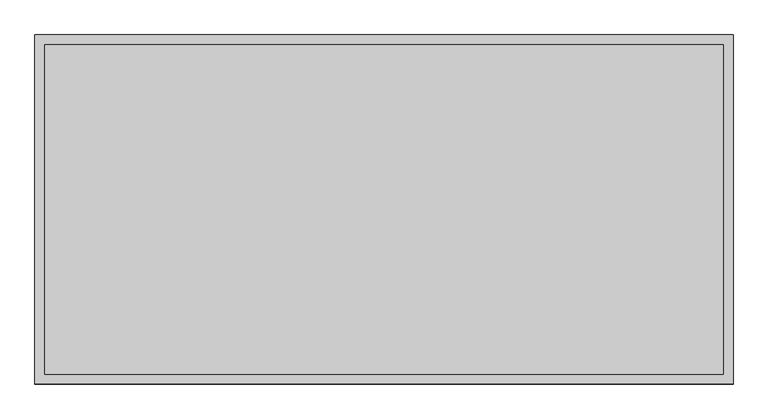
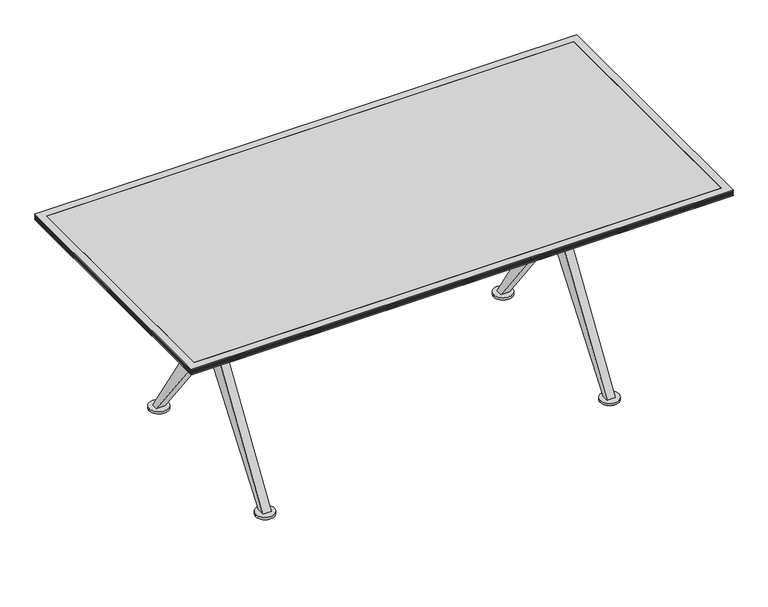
"""IFC4 building model written with IfcOpenShell, lengths in millimetres: furniture geometry, Coalesse_AM_Table_Conference_Ballet_Rectangular_XBase : Folding - 72L x 36W."""

from ifc_helpers import new_model, si_unit, point, frame, frame_2d, origin, origin_with_axes, place, context, project, spatial, polyline, circle_curve, trimmed, segment, composite_curve, outline, extrude, faceted_brep, source, transform, mapped, element, save
from ifc_brep_helpers import plane_surface, cylinder_surface, advanced_brep


def furniture_43bcfa1b(model_context):
    return source(origin(), model_context, "Body", "SolidModel", [
        extrude(outline(composite_curve([segment(trimmed(circle_curve(frame_2d((-581.0365536, 310.3799254)), 25.4), [point((-606.4365536, 310.3799254))], [point((-555.6365536, 310.3799254))], False, "CARTESIAN"), True, "CONTINUOUS"), segment(trimmed(circle_curve(frame_2d((-581.0365536, 310.3799254)), 25.4), [point((-555.6365536, 310.3799254))], [point((-606.4365536, 310.3799254))], False, "CARTESIAN"), True, "CONTINUOUS")], self_intersect=False)), origin_with_axes(), (0.0, 0.0, 1.0), 4.5427804),
        extrude(outline(composite_curve([segment(trimmed(circle_curve(frame_2d((-581.6541541, -311.83186)), 25.4), [point((-607.0541541, -311.83186))], [point((-556.2541541, -311.83186))], False, "CARTESIAN"), True, "CONTINUOUS"), segment(trimmed(circle_curve(frame_2d((-581.6541541, -311.83186)), 25.4), [point((-556.2541541, -311.83186))], [point((-607.0541541, -311.83186))], False, "CARTESIAN"), True, "CONTINUOUS")], self_intersect=False)), origin_with_axes(), (0.0, 0.0, 1.0), 4.5427804),
        extrude(outline(composite_curve([segment(trimmed(circle_curve(frame_2d((581.0365536, 310.388)), 25.4), [point((555.6365536, 310.388))], [point((606.4365536, 310.388))], False, "CARTESIAN"), True, "CONTINUOUS"), segment(trimmed(circle_curve(frame_2d((581.0365536, 310.388)), 25.4), [point((606.4365536, 310.388))], [point((555.6365536, 310.388))], False, "CARTESIAN"), True, "CONTINUOUS")], self_intersect=False)), origin_with_axes(), (0.0, 0.0, 1.0), 4.5427804),
        extrude(outline(composite_curve([segment(trimmed(circle_curve(frame_2d((581.6541541, -311.83186)), 25.4), [point((556.2541541, -311.83186))], [point((607.0541541, -311.83186))], False, "CARTESIAN"), True, "CONTINUOUS"), segment(trimmed(circle_curve(frame_2d((581.6541541, -311.83186)), 25.4), [point((607.0541541, -311.83186))], [point((556.2541541, -311.83186))], False, "CARTESIAN"), True, "CONTINUOUS")], self_intersect=False)), origin_with_axes(), (0.0, 0.0, 1.0), 4.5427804),
        extrude(outline(composite_curve([segment(trimmed(circle_curve(frame_2d((-581.0365536, 310.3799254)), 31.7510292), [point((-612.7875828, 310.3799254))], [point((-549.2855244, 310.3799254))], False, "CARTESIAN"), True, "CONTINUOUS"), segment(trimmed(circle_curve(frame_2d((-581.0365536, 310.3799254)), 31.7510292), [point((-549.2855244, 310.3799254))], [point((-612.7875828, 310.3799254))], False, "CARTESIAN"), True, "CONTINUOUS")], self_intersect=False)), frame((0.0, 0.0, 4.5427804), z_axis=(0.0, 0.0, 1.0), x_axis=(1.0, 0.0, 0.0)), (0.0, 0.0, 1.0), 8.1572196),
        extrude(outline(composite_curve([segment(trimmed(circle_curve(frame_2d((-581.6541541, -311.83186)), 31.75), [point((-613.4041541, -311.83186))], [point((-549.9041541, -311.83186))], False, "CARTESIAN"), True, "CONTINUOUS"), segment(trimmed(circle_curve(frame_2d((-581.6541541, -311.83186)), 31.75), [point((-549.9041541, -311.83186))], [point((-613.4041541, -311.83186))], False, "CARTESIAN"), True, "CONTINUOUS")], self_intersect=False)), frame((0.0, 0.0, 4.5427804), z_axis=(0.0, 0.0, 1.0), x_axis=(1.0, 0.0, 0.0)), (0.0, 0.0, 1.0), 8.1572196),
        extrude(outline(composite_curve([segment(trimmed(circle_curve(frame_2d((581.0365536, 310.388)), 31.7510292), [point((549.2855244, 310.388))], [point((612.7875828, 310.388))], False, "CARTESIAN"), True, "CONTINUOUS"), segment(trimmed(circle_curve(frame_2d((581.0365536, 310.388)), 31.7510292), [point((612.7875828, 310.388))], [point((549.2855244, 310.388))], False, "CARTESIAN"), True, "CONTINUOUS")], self_intersect=False)), frame((0.0, 0.0, 4.5427804), z_axis=(0.0, 0.0, 1.0), x_axis=(1.0, 0.0, 0.0)), (0.0, 0.0, 1.0), 8.1572196),
        extrude(outline(composite_curve([segment(trimmed(circle_curve(frame_2d((581.6541541, -311.83186)), 31.75), [point((549.9041541, -311.83186))], [point((613.4041541, -311.83186))], False, "CARTESIAN"), True, "CONTINUOUS"), segment(trimmed(circle_curve(frame_2d((581.6541541, -311.83186)), 31.75), [point((613.4041541, -311.83186))], [point((549.9041541, -311.83186))], False, "CARTESIAN"), True, "CONTINUOUS")], self_intersect=False)), frame((0.0, 0.0, 4.5427804), z_axis=(0.0, 0.0, 1.0), x_axis=(1.0, 0.0, 0.0)), (0.0, 0.0, 1.0), 8.1572196),
        extrude(outline(polyline([(21.0343629, 381.0), (21.0343629, 482.7111245), (322.2625018, 12.7), (299.8750745, 12.7), (21.0343629, 381.0)])), frame((566.7375, 0.0, 0.0), z_axis=(1.0, 0.0, 0.0), x_axis=(0.0, 1.0, 0.0)), (0.0, 0.0, 1.0), 28.575),
        extrude(outline(polyline([(-21.0343629, 381.0), (-299.8750745, 12.7), (-322.2625018, 12.7), (-21.0343629, 482.7111245), (-21.0343629, 381.0)])), frame((566.7375, 0.0, 0.0), z_axis=(1.0, 0.0, 0.0), x_axis=(0.0, 1.0, 0.0)), (0.0, 0.0, 1.0), 28.575),
        extrude(outline(polyline([(21.0343629, 381.0), (21.0343629, 482.7111245), (322.2625018, 12.7), (299.8750745, 12.7), (21.0343629, 381.0)])), frame((-595.3125, 0.0, 0.0), z_axis=(1.0, 0.0, 0.0), x_axis=(0.0, 1.0, 0.0)), (0.0, 0.0, 1.0), 28.5877172),
        extrude(outline(polyline([(-21.0343629, 381.0), (-299.8750745, 12.7), (-322.2625018, 12.7), (-21.0343629, 482.7111245), (-21.0343629, 381.0)])), frame((-595.3125, 0.0, 0.0), z_axis=(1.0, 0.0, 0.0), x_axis=(0.0, 1.0, 0.0)), (0.0, 0.0, 1.0), 28.5877172),
        extrude(outline(polyline([(-21.0343629, 577.7388634), (-333.375, 698.5000242), (-305.990625, 698.5000242), (-21.0343629, 641.3500242), (-21.0343629, 577.7388634)])), frame((566.7375, 0.0, 0.0), z_axis=(1.0, 0.0, 0.0), x_axis=(0.0, 1.0, 0.0)), (0.0, 0.0, 1.0), 28.575),
        extrude(outline(polyline([(21.0343629, 577.7388634), (21.0343629, 641.3501773), (305.990625, 698.5000242), (333.375, 698.5000242), (21.0343629, 577.7388634)])), frame((566.7375, 0.0, 0.0), z_axis=(1.0, 0.0, 0.0), x_axis=(0.0, 1.0, 0.0)), (0.0, 0.0, 1.0), 28.575),
        extrude(outline(polyline([(-21.0343629, 577.7388634), (-333.375, 698.5000242), (-305.990625, 698.5000242), (-21.0343629, 641.3500242), (-21.0343629, 577.7388634)])), frame((-595.3125, 0.0, 0.0), z_axis=(1.0, 0.0, 0.0), x_axis=(0.0, 1.0, 0.0)), (0.0, 0.0, 1.0), 28.5877172),
        extrude(outline(polyline([(21.0343629, 577.7388634), (21.0343629, 641.3501773), (305.990625, 698.5000242), (333.375, 698.5000242), (21.0343629, 577.7388634)])), frame((-595.3125, 0.0, 0.0), z_axis=(1.0, 0.0, 0.0), x_axis=(0.0, 1.0, 0.0)), (0.0, 0.0, 1.0), 28.5877172),
        advanced_brep(
        [(559.6154775, 12.6999879, 492.1250121), (-559.6154775, 12.6999879, 492.1250121), (-559.6154775, 12.6999879, 568.3250121), (559.6154775, 12.6999879, 568.3250121), (-556.2125298, 0.0, 568.3250121), (-559.6154775, -12.6999879, 568.3250121), (559.6154775, -12.6999879, 568.3250121), (556.2125298, 0.0, 568.3250121), (-559.6154775, -12.6999879, 492.1250121), (559.6154775, -12.6999879, 492.1250121), (556.2125298, 0.0, 492.1250121), (-556.2125298, 0.0, 492.1250121), (-607.0125298, 0.0, 641.3500242), (-556.2125298, 0.0, 641.3500242), (556.2125298, 0.0, 641.3500242), (607.0125298, 0.0, 641.3500242), (-607.0125298, 0.0, 381.0), (-556.2125298, 0.0, 381.0), (556.2125298, 0.0, 381.0), (607.0125298, 0.0, 381.0)],
        [
            (0, 1),
            (1, 2),
            (2, 3),
            (3, 0),
            (2, 4, circle_curve(frame((-581.6125298, 0.0, 568.3250121), z_axis=(0.0, 0.0, -1.0), x_axis=(1.0, 0.0, 0.0)), 25.4)),
            (4, 5, circle_curve(frame((-581.6125298, 0.0, 568.3250121), z_axis=(0.0, 0.0, -1.0), x_axis=(1.0, 0.0, 0.0)), 25.4)),
            (5, 6),
            (6, 7, circle_curve(frame((581.6125298, 0.0, 568.3250121), z_axis=(0.0, 0.0, -1.0), x_axis=(1.0, 0.0, 0.0)), 25.4)),
            (7, 3, circle_curve(frame((581.6125298, 0.0, 568.3250121), z_axis=(0.0, 0.0, -1.0), x_axis=(1.0, 0.0, 0.0)), 25.4)),
            (5, 8),
            (8, 9),
            (9, 6),
            (0, 10, circle_curve(frame((581.6125298, 0.0, 492.1250121), z_axis=(0.0, 0.0, 1.0), x_axis=(1.0, 0.0, 0.0)), 25.4)),
            (10, 9, circle_curve(frame((581.6125298, 0.0, 492.1250121), z_axis=(0.0, 0.0, 1.0), x_axis=(1.0, 0.0, 0.0)), 25.4)),
            (8, 11, circle_curve(frame((-581.6125298, 0.0, 492.1250121), z_axis=(0.0, 0.0, 1.0), x_axis=(1.0, 0.0, 0.0)), 25.4)),
            (11, 1, circle_curve(frame((-581.6125298, 0.0, 492.1250121), z_axis=(0.0, 0.0, 1.0), x_axis=(1.0, 0.0, 0.0)), 25.4)),
            (12, 13, circle_curve(frame((-581.6125298, 0.0, 641.3500242), z_axis=(0.0, 0.0, 1.0), x_axis=(1.0, 0.0, 0.0)), 25.4)),
            (13, 12, circle_curve(frame((-581.6125298, 0.0, 641.3500242), z_axis=(0.0, 0.0, 1.0), x_axis=(1.0, 0.0, 0.0)), 25.4)),
            (14, 15, circle_curve(frame((581.6125298, 0.0, 641.3500242), z_axis=(0.0, 0.0, 1.0), x_axis=(1.0, 0.0, 0.0)), 25.4)),
            (15, 14, circle_curve(frame((581.6125298, 0.0, 641.3500242), z_axis=(0.0, 0.0, 1.0), x_axis=(1.0, 0.0, 0.0)), 25.4)),
            (16, 17, circle_curve(frame((-581.6125298, 0.0, 381.0), z_axis=(0.0, 0.0, -1.0), x_axis=(1.0, 0.0, 0.0)), 25.4)),
            (17, 16, circle_curve(frame((-581.6125298, 0.0, 381.0), z_axis=(0.0, 0.0, -1.0), x_axis=(1.0, 0.0, 0.0)), 25.4)),
            (18, 19, circle_curve(frame((581.6125298, 0.0, 381.0), z_axis=(0.0, 0.0, -1.0), x_axis=(1.0, 0.0, 0.0)), 25.4)),
            (19, 18, circle_curve(frame((581.6125298, 0.0, 381.0), z_axis=(0.0, 0.0, -1.0), x_axis=(1.0, 0.0, 0.0)), 25.4)),
            (12, 16),
            (17, 11),
            (4, 13),
            (14, 7),
            (10, 18),
            (19, 15),
        ],
        [
            plane_surface(frame((566.7375, 12.6999879, 492.1250121), z_axis=(0.0, 1.0, 0.0), x_axis=(-1.0, 0.0, 0.0))),
            plane_surface(frame((566.7375, 12.6999879, 568.3250121), z_axis=(0.0, 0.0, 1.0), x_axis=(-1.0, 0.0, 0.0))),
            plane_surface(frame((566.7375, -12.6999879, 568.3250121), z_axis=(0.0, -1.0, 0.0), x_axis=(-1.0, 0.0, 0.0))),
            plane_surface(frame((566.7375, -12.6999879, 492.1250121), z_axis=(0.0, 0.0, -1.0), x_axis=(-1.0, 0.0, 0.0))),
            plane_surface(frame((-556.2125298, 0.0, 641.3500242), z_axis=(0.0, 0.0, 1.0), x_axis=(0.0, 1.0, 0.0))),
            plane_surface(frame((-556.2125298, 0.0, 381.0), z_axis=(0.0, 0.0, -1.0), x_axis=(0.0, -1.0, 0.0))),
            cylinder_surface(frame((-581.6125298, 0.0, 381.0), z_axis=(0.0, 0.0, 1.0), x_axis=(1.0, 0.0, 0.0)), 25.4),
            cylinder_surface(frame((581.6125298, 0.0, 0.0), z_axis=(0.0, 0.0, 1.0), x_axis=(1.0, 0.0, 0.0)), 25.4),
        ],
        [
            (0, [[1, 2, 3, 4]]),
            (1, [[-3, 5, 6, 7, 8, 9]]),
            (2, [[-7, 10, 11, 12]]),
            (3, [[-1, 13, 14, -11, 15, 16]]),
            (4, [[17, 18]]),
            (4, [[19, 20]]),
            (5, [[21, 22]]),
            (5, [[23, 24]]),
            (6, [[-17, 25, -22, 26, -15, -10, -6, 27]]),
            (6, [[-18, -27, -5, -2, -16, -26, -21, -25]]),
            (7, [[-19, 28, -8, -12, -14, 29, -24, 30]]),
            (7, [[-20, -30, -23, -29, -13, -4, -9, -28]]),
        ],
    ),
        faceted_brep([(-914.4003633, 457.2, 704.85), (-889.0003876, 431.8000242, 698.5000242), (-889.0003876, -431.7999516, 698.5000242), (-914.4003633, -457.1999273, 704.85), (-914.4003633, 457.2, 708.0250242), (-914.4003633, -457.1999273, 708.0250242), (-911.2253755, 454.0250121, 709.6125), (-911.2253755, -454.0249394, 709.6125), (-914.4003633, 457.2, 711.1999758), (-914.4003633, -457.1999273, 711.1999758), (-911.2253755, 454.0250121, 712.7875242), (-911.2253755, -454.0249394, 712.7875242), (-914.4003633, 457.2, 714.375), (-914.4003633, -457.1999273, 714.375), (-911.2253755, 454.0250121, 715.9624758), (-911.2253755, -454.0249394, 715.9624758), (-914.4003633, 457.2, 717.5500242), (-914.4003633, -457.1999273, 717.5500242), (-911.2253755, 454.0250121, 719.1375), (-911.2253755, -454.0249394, 719.1375), (-914.4003633, 457.2, 720.7249758), (-914.4003633, -457.1999273, 720.7249758), (-914.4003633, 457.2, 723.9), (-914.4003633, -457.1999273, 723.9), (-889.0003876, 431.8000242, 723.9), (-889.0003876, -431.7999516, 723.9), (889.0, -431.7999516, 698.5000242), (914.3999758, -457.1999273, 704.85), (914.3999758, -457.1999273, 708.0250242), (911.2249879, -454.0249394, 709.6125), (914.3999758, -457.1999273, 711.1999758), (911.2249879, -454.0249394, 712.7875242), (914.3999758, -457.1999273, 714.375), (911.2249879, -454.0249394, 715.9624758), (914.3999758, -457.1999273, 717.5500242), (911.2249879, -454.0249394, 719.1375), (914.3999758, -457.1999273, 720.7249758), (914.3999758, -457.1999273, 723.9), (889.0, -431.7999516, 723.9), (889.0, 431.8000242, 698.5000242), (914.3999758, 457.2, 704.85), (914.3999758, 457.2, 708.0250242), (911.2249879, 454.0250121, 709.6125), (914.3999758, 457.2, 711.1999758), (911.2249879, 454.0250121, 712.7875242), (914.3999758, 457.2, 714.375), (911.2249879, 454.0250121, 715.9624758), (914.3999758, 457.2, 717.5500242), (911.2249879, 454.0250121, 719.1375), (914.3999758, 457.2, 720.7249758), (914.3999758, 457.2, 723.9), (889.0, 431.8000242, 723.9)], [[[0, 1, 2, 3]], [[4, 0, 3, 5]], [[6, 4, 5, 7]], [[8, 6, 7, 9]], [[10, 8, 9, 11]], [[12, 10, 11, 13]], [[14, 12, 13, 15]], [[16, 14, 15, 17]], [[18, 16, 17, 19]], [[20, 18, 19, 21]], [[22, 20, 21, 23]], [[1, 24, 25, 2]], [[3, 2, 26, 27]], [[5, 3, 27, 28]], [[7, 5, 28, 29]], [[9, 7, 29, 30]], [[11, 9, 30, 31]], [[13, 11, 31, 32]], [[15, 13, 32, 33]], [[17, 15, 33, 34]], [[19, 17, 34, 35]], [[21, 19, 35, 36]], [[23, 21, 36, 37]], [[2, 25, 38, 26]], [[27, 26, 39, 40]], [[28, 27, 40, 41]], [[29, 28, 41, 42]], [[30, 29, 42, 43]], [[31, 30, 43, 44]], [[32, 31, 44, 45]], [[33, 32, 45, 46]], [[34, 33, 46, 47]], [[35, 34, 47, 48]], [[36, 35, 48, 49]], [[37, 36, 49, 50]], [[26, 38, 51, 39]], [[40, 39, 1, 0]], [[41, 40, 0, 4]], [[42, 41, 4, 6]], [[43, 42, 6, 8]], [[44, 43, 8, 10]], [[45, 44, 10, 12]], [[46, 45, 12, 14]], [[47, 46, 14, 16]], [[48, 47, 16, 18]], [[49, 48, 18, 20]], [[50, 49, 20, 22]], [[23, 37, 50, 22], [24, 51, 38, 25]], [[39, 51, 24, 1]]]),
        extrude(outline(polyline([(889.0, 431.8000242), (889.0, -431.7999516), (-889.0003876, -431.7999516), (-889.0003876, 431.8000242), (889.0, 431.8000242)])), frame((0.0, 0.0, 704.85), z_axis=(0.0, 0.0, 1.0), x_axis=(1.0, 0.0, 0.0)), (0.0, 0.0, 1.0), 19.05),
    ])


if __name__ == "__main__":
    model = new_model("IFC4")
    model_context = context("Model", 3, world=origin())
    ifc_project = project(units=[si_unit("LENGTHUNIT", "METRE", prefix="MILLI")], contexts=[model_context])
    site = spatial("IfcSite", under=ifc_project)
    building = spatial("IfcBuilding", under=site)
    placement = place(None, origin())
    furniture_shape = furniture_43bcfa1b(model_context)
    element("IfcFurniture", 1, ObjectType="Coalesse_AM_Table_Conference_Ballet_Rectangular_XBase : Folding - 72L x 36W", at=placement, inside=building, context=model_context, shape_type="MappedRepresentation", body=[
        mapped(furniture_shape, transform((0.0, 0.0, 0.0), x_axis=(1.0, 0.0, 0.0), y_axis=(0.0, 1.0, 0.0), z_axis=(0.0, 0.0, 1.0))),
    ])
    save(model, "model.ifc")
